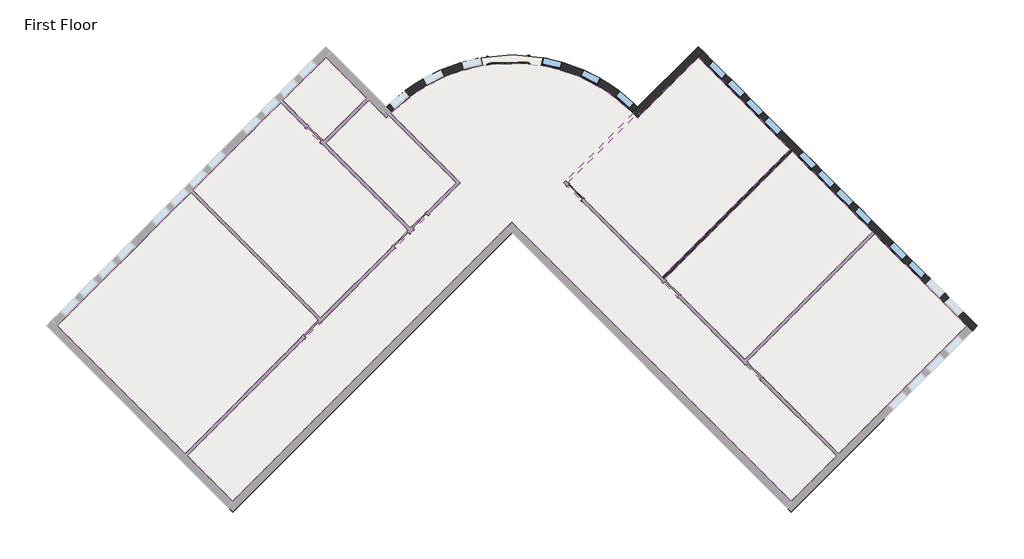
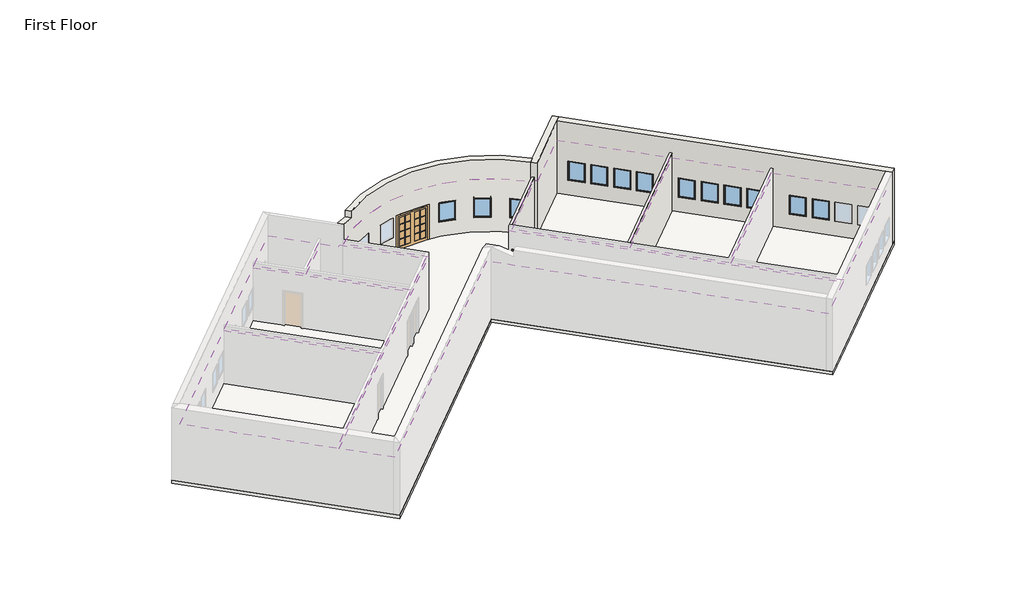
# One storey, part 2 of 2: 13 windows, 8 coverings, 5 walls, 2 doors, 1 slab.
"""IFC4 building model written with IfcOpenShell, lengths in millimetres."""

from ifc_helpers import new_model, si_unit, point, frame, frame_2d, origin, origin_with_axes, place, context, project, spatial, polyline, circle_curve, ellipse_curve, trimmed, segment, composite_curve, outline, extrude, faceted_brep, transform, mapped, element, save
from ifc_brep_helpers import plane_surface, cylinder_surface, revolved_surface, advanced_brep
from components import m_double_glass_2_1830_x_2134mm_ef281dce, m_single_glass_1_0915_x_2134mm_4e5e1233, m_fixed_0915_x_1220mm_bde29121, m_fixed_0915_x_1220mm_2a2509e7

model = new_model("IFC4")

# Units and contexts
model_context = context("Model", 3, world=origin())
ifc_project = project(units=[si_unit("LENGTHUNIT", "METRE", prefix="MILLI")], contexts=[model_context])

# Site, building, storey
site = spatial("IfcSite", under=ifc_project)
building = spatial("IfcBuilding", under=site)
storey = spatial("IfcBuildingStorey", under=building, Name="First Floor", Elevation=0.0)

# Coverings
placement = place(None, origin())
element("IfcCovering", 1, ObjectType="600 x 600mm grid", at=placement, inside=storey, context=model_context, shape_type="SweptSolid", body=[
    extrude(outline(polyline([(-10551.8033322, -2052.473346), (-16737.0431239, -8237.7131378), (-22658.8856396, -2315.870622), (-16473.6458479, 3869.3691697), (-10551.8033322, -2052.473346)])), frame((0.0, 0.0, 3353.0), z_axis=(0.0, 0.0, 1.0), x_axis=(1.0, 0.0, 0.0)), (0.0, 0.0, 1.0), 52.0),
])
element("IfcCovering", 2, ObjectType="600 x 600mm grid", at=placement, inside=storey, context=model_context, shape_type="SweptSolid", body=[
    extrude(outline(polyline([(-16375.7115587, 3967.3034589), (-12319.9238385, 8023.0911791), (-6398.0813228, 2101.2486633), (-10453.869043, -1954.5390569), (-16375.7115587, 3967.3034589)])), frame((0.0, 0.0, 3353.0), z_axis=(0.0, 0.0, 1.0), x_axis=(1.0, 0.0, 0.0)), (0.0, 0.0, 1.0), 52.0),
])
element("IfcCovering", 3, ObjectType="600 x 600mm grid", at=placement, inside=storey, context=model_context, shape_type="SweptSolid", body=[
    extrude(outline(polyline([(-8233.7305267, 8132.1624001), (-7543.133828, 7441.5657013), (-7436.5374807, 7548.1620486), (-4193.8527091, 4305.477277), (-6300.1470336, 2199.1829525), (-10233.4285039, 6132.4644229), (-8233.7305267, 8132.1624001)])), frame((0.0, 0.0, 3353.0), z_axis=(0.0, 0.0, 1.0), x_axis=(1.0, 0.0, 0.0)), (0.0, 0.0, 1.0), 52.0),
])
element("IfcCovering", 4, ObjectType="600 x 600mm grid", at=placement, inside=storey, context=model_context, shape_type="SweptSolid", body=[
    extrude(outline(polyline([(-12221.9895493, 8121.0254683), (-10222.2915721, 10120.7234455), (-8331.6648159, 8230.0966893), (-10331.3627931, 6230.3987121), (-12221.9895493, 8121.0254683)])), frame((0.0, 0.0, 3353.0), z_axis=(0.0, 0.0, 1.0), x_axis=(1.0, 0.0, 0.0)), (0.0, 0.0, 1.0), 52.0),
])
element("IfcCovering", 5, ObjectType="600 x 600mm grid", at=placement, inside=storey, context=model_context, shape_type="SweptSolid", body=[
    extrude(outline(composite_curve([segment(polyline([(795.4927389, 4305.477277), (13436.6174429, -8335.647427), (11330.3231184, -10441.9417514), (-1601.2456959, 2489.6270629), (-14532.8145102, -10441.9417514), (-16639.1088347, -8335.647427), (-3997.9841307, 4305.477277), (-7216.038281, 7523.5314273)]), True, "CONTINUOUS"), segment(trimmed(circle_curve(frame_2d((-1601.2456959, 1994.6523161)), 7880.0), [point((-7216.038281, 7523.5314273))], [point((4013.5468892, 7523.5314273))], False, "CARTESIAN"), True, "CONTINUOUS"), segment(polyline([(4013.5468892, 7523.5314273), (795.4927389, 4305.477277)]), True, "CONTINUOUS")], self_intersect=False)), frame((0.0, 0.0, 3353.0), z_axis=(0.0, 0.0, 1.0), x_axis=(1.0, 0.0, 0.0)), (0.0, 0.0, 1.0), 52.0),
])
element("IfcCovering", 6, ObjectType="600 x 600mm grid", at=placement, inside=storey, context=model_context, shape_type="SweptSolid", body=[
    extrude(outline(polyline([(4234.0460889, 7548.1620486), (4340.6424361, 7441.5657013), (7019.8001803, 10120.7234455), (11281.3559738, 5859.167652), (5359.5134581, -62.6748638), (991.3613173, 4305.477277), (4234.0460889, 7548.1620486)])), frame((0.0, 0.0, 3353.0), z_axis=(0.0, 0.0, 1.0), x_axis=(1.0, 0.0, 0.0)), (0.0, 0.0, 1.0), 52.0),
])
element("IfcCovering", 7, ObjectType="600 x 600mm grid", at=placement, inside=storey, context=model_context, shape_type="SweptSolid", body=[
    extrude(outline(polyline([(11379.290263, 5761.2333628), (15096.9041651, 2043.6194607), (9175.0616494, -3878.2230551), (5457.4477473, -160.609153), (11379.290263, 5761.2333628)])), frame((0.0, 0.0, 3353.0), z_axis=(0.0, 0.0, 1.0), x_axis=(1.0, 0.0, 0.0)), (0.0, 0.0, 1.0), 52.0),
])
element("IfcCovering", 8, ObjectType="600 x 600mm grid", at=placement, inside=storey, context=model_context, shape_type="SweptSolid", body=[
    extrude(outline(polyline([(15194.8384543, 1945.6851715), (19456.3942478, -2315.870622), (13534.5517321, -8237.7131378), (9272.9959386, -3976.1573443), (15194.8384543, 1945.6851715)])), frame((0.0, 0.0, 3353.0), z_axis=(0.0, 0.0, 1.0), x_axis=(1.0, 0.0, 0.0)), (0.0, 0.0, 1.0), 52.0),
])

# Doors
m_double_glass_2_1830_x_2134mm_shape = m_double_glass_2_1830_x_2134mm_ef281dce(model_context)
element("IfcDoor", 9, ObjectType="M_Double-Glass 2 : 1830 x 2134mm", at=placement, inside=storey, context=model_context, shape_type="MappedRepresentation", body=[
    mapped(m_double_glass_2_1830_x_2134mm_shape, transform((-1775.1372024, 9996.7407669, 0.0), x_axis=(-0.9997639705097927, -0.021725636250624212, 0.0), y_axis=(0.021725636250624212, -0.9997639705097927, 0.0), z_axis=(0.0, 0.0, 1.0))),
])
m_single_glass_1_0915_x_2134mm_shape = m_single_glass_1_0915_x_2134mm_4e5e1233(model_context)
element("IfcDoor", 10, ObjectType="M_Single-Glass 1 : 0915 x 2134mm", at=placement, inside=storey, context=model_context, shape_type="MappedRepresentation", body=[
    mapped(m_single_glass_1_0915_x_2134mm_shape, transform((1324.7621646, 3874.1421405, 0.0), x_axis=(-0.7071067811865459, 0.7071067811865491, 0.0), y_axis=(-0.7071067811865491, -0.7071067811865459, 0.0), z_axis=(0.0, 0.0, 1.0))),
])

# Slab
element("IfcSlab", 11, ObjectType="160mm Concrete With 50mm Metal Deck", at=placement, inside=storey, context=model_context, shape_type="SweptSolid", body=[
    extrude(outline(composite_curve([segment(polyline([(-10222.2915721, 10615.6981923), (-7420.7345051, 7814.1411252)]), True, "CONTINUOUS"), segment(trimmed(circle_curve(frame_2d((-1601.2456959, 1994.6523161)), 8230.0), [point((-7420.7345051, 7814.1411252))], [point((4218.2431133, 7814.1411252))], False, "CARTESIAN"), True, "CONTINUOUS"), segment(polyline([(4218.2431133, 7814.1411252), (7019.8001803, 10615.6981923), (19951.3689947, -2315.870622), (11330.3231184, -10936.9164983), (-1601.2456959, 1994.6523161), (-14532.8145102, -10936.9164983), (-23153.8603865, -2315.870622), (-10222.2915721, 10615.6981923)]), True, "CONTINUOUS")], self_intersect=False)), frame((0.0, 0.0, -210.0), z_axis=(0.0, 0.0, 1.0), x_axis=(1.0, 0.0, 0.0)), (0.0, 0.0, 1.0), 210.0),
])

# Walls
element("IfcWall", 12, ObjectType="Exterior - Brick on Mtl. Stud", at=placement, inside=storey, context=model_context, shape_type="AdvancedBrep", body=[
    advanced_brep(
    [(4212.7441701, 7313.6674352, 4572.0), (4212.7441701, 7313.6674352, 0.0), (7019.8001803, 10120.7234455, 0.0), (7267.2875537, 10368.2108189, 0.0), (7267.2875537, 10368.2108189, 4572.0), (7019.8001803, 10120.7234455, 4572.0), (3970.7557398, 7566.6537518, 0.0), (3970.7557398, 7566.6537518, 4572.0), (4218.2431133, 7814.1411252, 4572.0), (7019.8001803, 10615.6981923, 4572.0), (7019.8001803, 10615.6981923, 0.0), (4218.2431133, 7814.1411252, 0.0), (4109.8638796, 7423.9826013, 0.0), (4013.5506313, 7523.5275434, 0.0)],
    [
        (0, 1),
        (1, 2),
        (2, 3),
        (3, 4),
        (4, 5),
        (5, 0),
        (6, 7),
        (7, 8),
        (8, 9),
        (9, 10),
        (10, 11),
        (11, 6),
        (1, 12, circle_curve(frame((-1601.2456959, 1994.6523161, 0.0), z_axis=(0.0, 0.0, 1.0), x_axis=(1.0, 0.0, 0.0)), 7880.0)),
        (12, 13, circle_curve(frame((-1601.2456959, 1994.6523161, 0.0), z_axis=(0.0, 0.0, 1.0), x_axis=(1.0, 0.0, 0.0)), 7879.9999955)),
        (13, 6, circle_curve(frame((-1601.2456959, 1994.6523161, 0.0), z_axis=(0.0, 0.0, 1.0), x_axis=(1.0, 0.0, 0.0)), 7879.9999413)),
        (10, 3),
        (4, 9),
        (7, 0, circle_curve(frame((-1601.2456959, 1994.6523161, 4572.0), z_axis=(0.0, 0.0, -1.0), x_axis=(1.0, 0.0, 0.0)), 7880.0)),
    ],
    [
        plane_surface(frame((4250.0629184, 7350.9861836, 0.0), z_axis=(0.7071067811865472, -0.7071067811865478, 0.0), x_axis=(0.7071067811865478, 0.7071067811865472, 0.0))),
        plane_surface(frame((4002.575545, 7598.473557, 0.0), z_axis=(-0.7071067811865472, 0.7071067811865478, 0.0), x_axis=(-0.7071067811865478, -0.7071067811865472, 0.0))),
        plane_surface(frame((4340.6424361, 7441.5657013, 0.0), z_axis=(0.0, 0.0, -1.0), x_axis=(-0.7071067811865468, 0.7071067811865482, 0.0))),
        plane_surface(frame((7143.543867, 10244.4671322, 4572.0), z_axis=(0.0, 0.0, 1.0), x_axis=(-0.707106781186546, 0.7071067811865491, 0.0))),
        plane_surface(frame((7019.8001803, 10615.6981923, 0.0), z_axis=(0.7071067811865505, 0.7071067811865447, 0.0), x_axis=(-0.7071067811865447, 0.7071067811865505, 0.0))),
        revolved_surface(polyline([(6278.7543041, 1994.6523161, 0.0), (6278.7543041, 1994.6523161, 4572.0)]), (-1601.2456959, 1994.6523161, 0.0), (0.0, 0.0, -1.0)),
    ],
    [
        (0, [[1, 2, 3, 4, 5, 6]]),
        (1, [[7, 8, 9, 10, 11, 12]]),
        (2, [[-3, -2, 13, 14, 15, -12, -11, 16]]),
        (3, [[-6, -5, 17, -9, -8, 18]]),
        (4, [[-4, -16, -10, -17]]),
        (5, [[-18, -7, -15, -14, -13, -1]]),
    ],
),
])
element("IfcWall", 13, ObjectType="Exterior - Brick on Mtl. Stud", at=placement, inside=storey, context=model_context, shape_type="Brep", body=[
    faceted_brep([(7019.8001803, 10120.7234455, 0.0), (11281.3559738, 5859.167652, 0.0), (11379.290263, 5761.2333628, 0.0), (15096.9041651, 2043.6194607, 0.0), (15194.8384543, 1945.6851715, 0.0), (19456.3942478, -2315.870622, 0.0), (19703.8816212, -2563.3579955, 0.0), (19703.8816212, -2563.3579955, 4572.0), (19456.3942478, -2315.870622, 4572.0), (7019.8001803, 10120.7234455, 4572.0), (19041.6761207, -1901.1524949, 915.0), (18394.6734159, -1254.1497901, 915.0), (18394.6734159, -1254.1497901, 2135.0), (19041.6761207, -1901.1524949, 2135.0), (18179.7129544, -1039.1893286, 915.0), (17532.7102496, -392.1866238, 915.0), (17532.7102496, -392.1866238, 2135.0), (18179.7129544, -1039.1893286, 2135.0), (17317.7497881, -177.2261623, 915.0), (16670.7470833, 469.7765424, 915.0), (16670.7470833, 469.7765424, 2135.0), (17317.7497881, -177.2261623, 2135.0), (16455.7866219, 684.7370039, 915.0), (15808.7839171, 1331.7397087, 915.0), (15808.7839171, 1331.7397087, 2135.0), (16455.7866219, 684.7370039, 2135.0), (12257.1680181, 4883.3556077, 915.0), (11610.1653133, 5530.3583124, 915.0), (11610.1653133, 5530.3583124, 2135.0), (12257.1680181, 4883.3556077, 2135.0), (13119.1311844, 4021.3924414, 915.0), (12472.1284796, 4668.3951462, 915.0), (12472.1284796, 4668.3951462, 2135.0), (13119.1311844, 4021.3924414, 2135.0), (13981.0943507, 3159.4292751, 915.0), (13334.0916459, 3806.4319799, 915.0), (13334.0916459, 3806.4319799, 2135.0), (13981.0943507, 3159.4292751, 2135.0), (14843.0575169, 2297.4661089, 915.0), (14196.0548121, 2944.4688136, 915.0), (14196.0548121, 2944.4688136, 2135.0), (14843.0575169, 2297.4661089, 2135.0), (8081.5210123, 9059.0026135, 915.0), (7434.5183075, 9706.0053183, 915.0), (7434.5183075, 9706.0053183, 2135.0), (8081.5210123, 9059.0026135, 2135.0), (8943.4841785, 8197.0394473, 915.0), (8296.4814737, 8844.042152, 915.0), (8296.4814737, 8844.042152, 2135.0), (8943.4841785, 8197.0394473, 2135.0), (9805.4473448, 7335.076281, 915.0), (9158.44464, 7982.0789858, 915.0), (9158.44464, 7982.0789858, 2135.0), (9805.4473448, 7335.076281, 2135.0), (10667.4105111, 6473.1131147, 915.0), (10020.4078063, 7120.1158195, 915.0), (10020.4078063, 7120.1158195, 2135.0), (10667.4105111, 6473.1131147, 2135.0), (7267.2875537, 10368.2108189, 0.0), (7267.2875537, 10368.2108189, 4572.0), (19951.3689947, -2315.870622, 4572.0), (19951.3689947, -2315.870622, 0.0), (19289.1634941, -1653.6651215, 915.0), (19289.1634941, -1653.6651215, 2135.0), (18642.1607893, -1006.6624167, 2135.0), (18642.1607893, -1006.6624167, 915.0), (18427.2003278, -791.7019552, 915.0), (18427.2003278, -791.7019552, 2135.0), (17780.197623, -144.6992504, 2135.0), (17780.197623, -144.6992504, 915.0), (17565.2371615, 70.2612111, 915.0), (17565.2371615, 70.2612111, 2135.0), (16918.2344568, 717.2639159, 2135.0), (16918.2344568, 717.2639159, 915.0), (16703.2739953, 932.2243773, 915.0), (16703.2739953, 932.2243773, 2135.0), (16056.2712905, 1579.2270821, 2135.0), (16056.2712905, 1579.2270821, 915.0), (12504.6553915, 5130.8429811, 915.0), (12504.6553915, 5130.8429811, 2135.0), (11857.6526868, 5777.8456859, 2135.0), (11857.6526868, 5777.8456859, 915.0), (13366.6185578, 4268.8798148, 915.0), (13366.6185578, 4268.8798148, 2135.0), (12719.615853, 4915.8825196, 2135.0), (12719.615853, 4915.8825196, 915.0), (14228.5817241, 3406.9166485, 915.0), (14228.5817241, 3406.9166485, 2135.0), (13581.5790193, 4053.9193533, 2135.0), (13581.5790193, 4053.9193533, 915.0), (15090.5448903, 2544.9534823, 915.0), (15090.5448903, 2544.9534823, 2135.0), (14443.5421856, 3191.9561871, 2135.0), (14443.5421856, 3191.9561871, 915.0), (8329.0083857, 9306.4899869, 915.0), (8329.0083857, 9306.4899869, 2135.0), (7682.0056809, 9953.4926917, 2135.0), (7682.0056809, 9953.4926917, 915.0), (9190.971552, 8444.5268207, 915.0), (9190.971552, 8444.5268207, 2135.0), (8543.9688472, 9091.5295255, 2135.0), (8543.9688472, 9091.5295255, 915.0), (10052.9347182, 7582.5636544, 915.0), (10052.9347182, 7582.5636544, 2135.0), (9405.9320134, 8229.5663592, 2135.0), (9405.9320134, 8229.5663592, 915.0), (10914.8978845, 6720.6004881, 915.0), (10914.8978845, 6720.6004881, 2135.0), (10267.8951797, 7367.6031929, 2135.0), (10267.8951797, 7367.6031929, 915.0)], [[[0, 1, 2, 3, 4, 5, 6, 7, 8, 9], [10, 11, 12, 13], [14, 15, 16, 17], [18, 19, 20, 21], [22, 23, 24, 25], [26, 27, 28, 29], [30, 31, 32, 33], [34, 35, 36, 37], [38, 39, 40, 41], [42, 43, 44, 45], [46, 47, 48, 49], [50, 51, 52, 53], [54, 55, 56, 57]], [[58, 59, 60, 61], [62, 63, 64, 65], [66, 67, 68, 69], [70, 71, 72, 73], [74, 75, 76, 77], [78, 79, 80, 81], [82, 83, 84, 85], [86, 87, 88, 89], [90, 91, 92, 93], [94, 95, 96, 97], [98, 99, 100, 101], [102, 103, 104, 105], [106, 107, 108, 109]], [[6, 5, 4, 3, 2, 1, 0, 58, 61]], [[9, 8, 7, 60, 59]], [[0, 9, 59, 58]], [[7, 6, 61, 60]], [[63, 62, 10, 13]], [[64, 63, 13, 12]], [[65, 64, 12, 11]], [[62, 65, 11, 10]], [[67, 66, 14, 17]], [[68, 67, 17, 16]], [[69, 68, 16, 15]], [[66, 69, 15, 14]], [[71, 70, 18, 21]], [[72, 71, 21, 20]], [[73, 72, 20, 19]], [[70, 73, 19, 18]], [[75, 74, 22, 25]], [[76, 75, 25, 24]], [[77, 76, 24, 23]], [[74, 77, 23, 22]], [[79, 78, 26, 29]], [[80, 79, 29, 28]], [[81, 80, 28, 27]], [[78, 81, 27, 26]], [[83, 82, 30, 33]], [[84, 83, 33, 32]], [[85, 84, 32, 31]], [[82, 85, 31, 30]], [[87, 86, 34, 37]], [[88, 87, 37, 36]], [[89, 88, 36, 35]], [[86, 89, 35, 34]], [[91, 90, 38, 41]], [[92, 91, 41, 40]], [[93, 92, 40, 39]], [[90, 93, 39, 38]], [[95, 94, 42, 45]], [[96, 95, 45, 44]], [[97, 96, 44, 43]], [[94, 97, 43, 42]], [[99, 98, 46, 49]], [[100, 99, 49, 48]], [[101, 100, 48, 47]], [[98, 101, 47, 46]], [[103, 102, 50, 53]], [[104, 103, 53, 52]], [[105, 104, 52, 51]], [[102, 105, 51, 50]], [[107, 106, 54, 57]], [[108, 107, 57, 56]], [[109, 108, 56, 55]], [[106, 109, 55, 54]]]),
])
element("IfcWall", 14, ObjectType="Exterior - Brick on Mtl. Stud", at=placement, inside=storey, context=model_context, shape_type="AdvancedBrep", body=[
    advanced_brep(
    [(-7420.7345051, 7814.1411252, 0.0), (-7420.7345051, 7814.1411252, 4572.0), (-6493.7687298, 8612.515896, 4164.7405634), (-6493.7687298, 8612.515896, 4572.0), (4218.2431133, 7814.1411252, 4572.0), (4218.2431133, 7814.1411252, 0.0), (-864.1551557, 10191.5784189, 0.0), (-864.1551557, 10191.5784189, 2134.0), (-2693.7232217, 10151.8205046, 2134.0), (-2693.7232217, 10151.8205046, 0.0), (-6560.8584073, 8562.3872188, 915.0), (-6560.8584073, 8562.3872188, 2135.0), (-7259.2688911, 7971.2461222, 2135.0), (-7259.2688911, 7971.2461222, 915.0), (-3038.6037285, 10098.1640169, 915.0), (-3038.6037285, 10098.1640169, 2135.0), (-3929.264468, 9888.5251676, 2135.0), (-3929.264468, 9888.5251676, 915.0), (-4890.6166492, 9538.7187747, 915.0), (-4890.6166492, 9538.7187747, 2135.0), (-5707.7291441, 9126.9516431, 2135.0), (-5707.7291441, 9126.9516431, 915.0), (1688.1252574, 9538.7187747, 2135.0), (1688.1252574, 9538.7187747, 915.0), (2505.2377523, 9126.9516431, 915.0), (2505.2377523, 9126.9516431, 2135.0), (-163.8876633, 10098.1640169, 2135.0), (-163.8876633, 10098.1640169, 915.0), (726.7730762, 9888.5251676, 915.0), (726.7730762, 9888.5251676, 2135.0), (3358.3670155, 8562.3872188, 2135.0), (3358.3670155, 8562.3872188, 915.0), (4056.7774992, 7971.2461222, 915.0), (4056.7774992, 7971.2461222, 2135.0), (-7173.2471317, 7566.6537518, 4572.0), (-7173.2471317, 7566.6537518, 0.0), (-2686.0696858, 9799.6223295, 0.0), (-2686.0696858, 9799.6223295, 2134.0), (-856.5016198, 9839.3802439, 2134.0), (-856.5016198, 9839.3802439, 0.0), (3970.7557398, 7566.6537518, 0.0), (3970.7557398, 7566.6537518, 4572.0), (-6243.3914961, 8362.1386623, 4572.0), (-6243.3914961, 8362.1386623, 4164.7405634), (-6334.373084, 8294.8035149, 915.0), (-7032.7835678, 7703.6624182, 915.0), (-7032.7835678, 7703.6624182, 2135.0), (-6334.373084, 8294.8035149, 2135.0), (-2958.2842873, 9756.9230059, 2135.0), (-2958.2842873, 9756.9230059, 915.0), (-3848.9450268, 9547.2841566, 915.0), (-3848.9450268, 9547.2841566, 2135.0), (-4732.8553085, 9225.6564811, 2135.0), (-4732.8553085, 9225.6564811, 915.0), (-5549.9678034, 8813.8893495, 915.0), (-5549.9678034, 8813.8893495, 2135.0), (1530.3639167, 9225.6564811, 915.0), (1530.3639167, 9225.6564811, 2135.0), (2347.4764116, 8813.8893495, 2135.0), (2347.4764116, 8813.8893495, 915.0), (-244.2071045, 9756.9230059, 915.0), (-244.2071045, 9756.9230059, 2135.0), (646.453635, 9547.2841566, 2135.0), (646.453635, 9547.2841566, 915.0), (3131.8816922, 8294.8035149, 915.0), (3131.8816922, 8294.8035149, 2135.0), (3830.2921759, 7703.6624182, 2135.0), (3830.2921759, 7703.6624182, 915.0)],
    [
        (0, 1),
        (1, 2, ellipse_curve(frame((-1601.2456959, 1994.6523161, 4572.0), z_axis=(-0.22390007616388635, -0.2239000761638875, -0.9485449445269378), x_axis=(-0.6707225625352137, -0.6707225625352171, 0.3166425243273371)), 8676.447065, 8230.0)),
        (2, 3),
        (3, 4, circle_curve(frame((-1601.2456959, 1994.6523161, 4572.0), z_axis=(0.0, 0.0, -1.0), x_axis=(1.0, 0.0, 0.0)), 8230.0)),
        (4, 5),
        (5, 6, circle_curve(frame((-1601.2456959, 1994.6523161, 0.0), z_axis=(0.0, 0.0, 1.0), x_axis=(1.0, 0.0, 0.0)), 8230.0)),
        (6, 7),
        (7, 8, circle_curve(frame((-1601.2456959, 1994.6523161, 2134.0), z_axis=(0.0, 0.0, 1.0), x_axis=(1.0, 0.0, 0.0)), 8230.0)),
        (8, 9),
        (9, 0, circle_curve(frame((-1601.2456959, 1994.6523161, 0.0), z_axis=(0.0, 0.0, 1.0), x_axis=(1.0, 0.0, 0.0)), 8230.0)),
        (10, 11),
        (11, 12, circle_curve(frame((-1601.2456959, 1994.6523161, 2135.0), z_axis=(0.0, 0.0, 1.0), x_axis=(1.0, 0.0, 0.0)), 8230.0)),
        (12, 13),
        (13, 10, circle_curve(frame((-1601.2456959, 1994.6523161, 915.0), z_axis=(0.0, 0.0, -1.0), x_axis=(1.0, 0.0, 0.0)), 8230.0)),
        (14, 15),
        (15, 16, circle_curve(frame((-1601.2456959, 1994.6523161, 2135.0), z_axis=(0.0, 0.0, 1.0), x_axis=(1.0, 0.0, 0.0)), 8230.0)),
        (16, 17),
        (17, 14, circle_curve(frame((-1601.2456959, 1994.6523161, 915.0), z_axis=(0.0, 0.0, -1.0), x_axis=(1.0, 0.0, 0.0)), 8230.0)),
        (18, 19),
        (19, 20, circle_curve(frame((-1601.2456959, 1994.6523161, 2135.0), z_axis=(0.0, 0.0, 1.0), x_axis=(1.0, 0.0, 0.0)), 8230.0)),
        (20, 21),
        (21, 18, circle_curve(frame((-1601.2456959, 1994.6523161, 915.0), z_axis=(0.0, 0.0, -1.0), x_axis=(1.0, 0.0, 0.0)), 8230.0)),
        (22, 23),
        (23, 24, circle_curve(frame((-1601.2456959, 1994.6523161, 915.0), z_axis=(0.0, 0.0, -1.0), x_axis=(1.0, 0.0, 0.0)), 8230.0)),
        (24, 25),
        (25, 22, circle_curve(frame((-1601.2456959, 1994.6523161, 2135.0), z_axis=(0.0, 0.0, 1.0), x_axis=(1.0, 0.0, 0.0)), 8230.0)),
        (26, 27),
        (27, 28, circle_curve(frame((-1601.2456959, 1994.6523161, 915.0), z_axis=(0.0, 0.0, -1.0), x_axis=(1.0, 0.0, 0.0)), 8230.0)),
        (28, 29),
        (29, 26, circle_curve(frame((-1601.2456959, 1994.6523161, 2135.0), z_axis=(0.0, 0.0, 1.0), x_axis=(1.0, 0.0, 0.0)), 8230.0)),
        (30, 31),
        (31, 32, circle_curve(frame((-1601.2456959, 1994.6523161, 915.0), z_axis=(0.0, 0.0, -1.0), x_axis=(1.0, 0.0, 0.0)), 8230.0)),
        (32, 33),
        (33, 30, circle_curve(frame((-1601.2456959, 1994.6523161, 2135.0), z_axis=(0.0, 0.0, 1.0), x_axis=(1.0, 0.0, 0.0)), 8230.0)),
        (34, 35),
        (35, 36, circle_curve(frame((-1601.2456959, 1994.6523161, 0.0), z_axis=(0.0, 0.0, -1.0), x_axis=(1.0, 0.0, 0.0)), 7880.0)),
        (36, 37),
        (37, 38, circle_curve(frame((-1601.2456959, 1994.6523161, 2134.0), z_axis=(0.0, 0.0, -1.0), x_axis=(1.0, 0.0, 0.0)), 7880.0)),
        (38, 39),
        (39, 40, circle_curve(frame((-1601.2456959, 1994.6523161, 0.0), z_axis=(0.0, 0.0, -1.0), x_axis=(1.0, 0.0, 0.0)), 7880.0)),
        (40, 41),
        (41, 42, circle_curve(frame((-1601.2456959, 1994.6523161, 4572.0), z_axis=(0.0, 0.0, 1.0), x_axis=(1.0, 0.0, 0.0)), 7880.0)),
        (42, 43),
        (43, 34, ellipse_curve(frame((-1601.2456959, 1994.6523161, 4572.0), z_axis=(0.22390007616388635, 0.2239000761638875, 0.9485449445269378), x_axis=(0.6707225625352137, 0.6707225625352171, -0.3166425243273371)), 8307.4608594, 7880.0)),
        (44, 45, circle_curve(frame((-1601.2456959, 1994.6523161, 915.0), z_axis=(0.0, 0.0, 1.0), x_axis=(1.0, 0.0, 0.0)), 7880.0)),
        (45, 46),
        (46, 47, circle_curve(frame((-1601.2456959, 1994.6523161, 2135.0), z_axis=(0.0, 0.0, -1.0), x_axis=(1.0, 0.0, 0.0)), 7880.0)),
        (47, 44),
        (48, 49),
        (49, 50, circle_curve(frame((-1601.2456959, 1994.6523161, 915.0), z_axis=(0.0, 0.0, 1.0), x_axis=(1.0, 0.0, 0.0)), 7880.0)),
        (50, 51),
        (51, 48, circle_curve(frame((-1601.2456959, 1994.6523161, 2135.0), z_axis=(0.0, 0.0, -1.0), x_axis=(1.0, 0.0, 0.0)), 7880.0)),
        (52, 53),
        (53, 54, circle_curve(frame((-1601.2456959, 1994.6523161, 915.0), z_axis=(0.0, 0.0, 1.0), x_axis=(1.0, 0.0, 0.0)), 7880.0)),
        (54, 55),
        (55, 52, circle_curve(frame((-1601.2456959, 1994.6523161, 2135.0), z_axis=(0.0, 0.0, -1.0), x_axis=(1.0, 0.0, 0.0)), 7880.0)),
        (56, 57),
        (57, 58, circle_curve(frame((-1601.2456959, 1994.6523161, 2135.0), z_axis=(0.0, 0.0, -1.0), x_axis=(1.0, 0.0, 0.0)), 7880.0)),
        (58, 59),
        (59, 56, circle_curve(frame((-1601.2456959, 1994.6523161, 915.0), z_axis=(0.0, 0.0, 1.0), x_axis=(1.0, 0.0, 0.0)), 7880.0)),
        (60, 61),
        (61, 62, circle_curve(frame((-1601.2456959, 1994.6523161, 2135.0), z_axis=(0.0, 0.0, -1.0), x_axis=(1.0, 0.0, 0.0)), 7880.0)),
        (62, 63),
        (63, 60, circle_curve(frame((-1601.2456959, 1994.6523161, 915.0), z_axis=(0.0, 0.0, 1.0), x_axis=(1.0, 0.0, 0.0)), 7880.0)),
        (64, 65),
        (65, 66, circle_curve(frame((-1601.2456959, 1994.6523161, 2135.0), z_axis=(0.0, 0.0, -1.0), x_axis=(1.0, 0.0, 0.0)), 7880.0)),
        (66, 67),
        (67, 64, circle_curve(frame((-1601.2456959, 1994.6523161, 915.0), z_axis=(0.0, 0.0, 1.0), x_axis=(1.0, 0.0, 0.0)), 7880.0)),
        (0, 35),
        (34, 1),
        (4, 41),
        (40, 5),
        (8, 37),
        (36, 9),
        (7, 38),
        (6, 39),
        (10, 44),
        (47, 11),
        (46, 12),
        (45, 13),
        (14, 49),
        (48, 15),
        (51, 16),
        (50, 17),
        (18, 53),
        (52, 19),
        (55, 20),
        (54, 21),
        (56, 23),
        (22, 57),
        (25, 58),
        (24, 59),
        (60, 27),
        (26, 61),
        (29, 62),
        (28, 63),
        (64, 31),
        (30, 65),
        (33, 66),
        (32, 67),
        (3, 42),
        (2, 43),
    ],
    [
        cylinder_surface(frame((-1601.2456959, 1994.6523161, 0.0), z_axis=(0.0, 0.0, 1.0), x_axis=(1.0, 0.0, 0.0)), 8230.0),
        revolved_surface(polyline([(6278.7543041, 1994.6523161, 0.0), (6278.7543041, 1994.6523161, 7202.495377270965)]), (-1601.2456959, 1994.6523161, 0.0), (0.0, 0.0, -1.0)),
        plane_surface(frame((-10222.2915721, 10615.6981923, 0.0), z_axis=(-0.7071067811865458, -0.7071067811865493, 0.0), x_axis=(-0.7071067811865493, 0.7071067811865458, 0.0))),
        plane_surface(frame((4002.575545, 7598.473557, 0.0), z_axis=(0.7071067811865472, -0.7071067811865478, 0.0), x_axis=(-0.7071067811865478, -0.7071067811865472, 0.0))),
        plane_surface(frame((-2726.8330914, 11675.4607956, 0.0), z_axis=(0.9997639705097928, 0.021725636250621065, 0.0), x_axis=(0.021725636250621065, -0.9997639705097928, 0.0))),
        plane_surface(frame((-2726.8330914, 11675.4607956, 2134.0), z_axis=(0.0, 0.0, -1.0000000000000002), x_axis=(0.021725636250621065, -0.9997639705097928, 0.0))),
        plane_surface(frame((-897.2650253, 11715.21871, 2134.0), z_axis=(-0.9997639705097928, -0.021725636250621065, 0.0), x_axis=(0.021725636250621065, -0.9997639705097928, 0.0))),
        plane_surface(frame((-6560.8584073, 8562.3872188, 915.0), z_axis=(-0.7632901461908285, -0.6460558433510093, 0.0), x_axis=(0.6460558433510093, -0.7632901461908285, 0.0))),
        plane_surface(frame((-6560.8584073, 8562.3872188, 2135.0), z_axis=(0.0, 0.0, -1.0000000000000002), x_axis=(0.6460558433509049, -0.7632901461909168, 0.0))),
        plane_surface(frame((-7259.2688911, 7971.2461222, 2135.0), z_axis=(0.7632901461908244, 0.6460558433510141, 0.0), x_axis=(0.6460558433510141, -0.7632901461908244, 0.0))),
        plane_surface(frame((-7259.2688911, 7971.2461222, 915.0), z_axis=(0.0, 0.0, 1.0), x_axis=(0.6460558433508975, -0.7632901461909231, 0.0))),
        plane_surface(frame((-2689.4347599, 8614.7028508, 915.0), z_axis=(-0.9733997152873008, -0.22911349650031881, 0.0), x_axis=(-0.22911349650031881, 0.9733997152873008, 0.0))),
        plane_surface(frame((-2689.4347599, 8614.7028508, 2135.0), z_axis=(0.0, 0.0, -1.0), x_axis=(-0.22911349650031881, 0.9733997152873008, 0.0))),
        plane_surface(frame((-3580.0954993, 8405.0640015, 2135.0), z_axis=(0.9733997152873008, 0.2291134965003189, 0.0), x_axis=(-0.2291134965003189, 0.9733997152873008, 0.0))),
        plane_surface(frame((-3580.0954993, 8405.0640015, 915.0), z_axis=(0.0, 0.0, 1.0), x_axis=(-0.2291134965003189, 0.9733997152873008, 0.0))),
        plane_surface(frame((-4890.6166492, 9538.7187747, 915.0), z_axis=(-0.893019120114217, -0.45001872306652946, 0.0), x_axis=(0.45001872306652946, -0.893019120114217, 0.0))),
        plane_surface(frame((-4890.6166492, 9538.7187747, 2135.0), z_axis=(0.0, 0.0, -1.0), x_axis=(0.4500187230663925, -0.893019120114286, 0.0))),
        plane_surface(frame((-5707.7291441, 9126.9516431, 2135.0), z_axis=(0.8930191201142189, 0.4500187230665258, 0.0), x_axis=(0.4500187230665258, -0.8930191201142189, 0.0))),
        plane_surface(frame((-5707.7291441, 9126.9516431, 915.0), z_axis=(0.0, 0.0, 1.0), x_axis=(0.4500187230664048, -0.8930191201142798, 0.0))),
        plane_surface(frame((1530.3639167, 9225.6564811, 915.0), z_axis=(0.8930191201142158, -0.45001872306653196, 0.0), x_axis=(0.45001872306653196, 0.8930191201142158, 0.0))),
        plane_surface(frame((1530.3639167, 9225.6564811, 2135.0), z_axis=(0.0, 0.0, -1.0000000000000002), x_axis=(0.4500187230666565, 0.8930191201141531, 0.0))),
        plane_surface(frame((2347.4764116, 8813.8893495, 2135.0), z_axis=(-0.8930191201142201, 0.4500187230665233, 0.0), x_axis=(0.4500187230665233, 0.8930191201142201, 0.0))),
        plane_surface(frame((2347.4764116, 8813.8893495, 915.0), z_axis=(0.0, 0.0, 1.0000000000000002), x_axis=(0.45001872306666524, 0.8930191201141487, 0.0))),
        plane_surface(frame((-244.2071045, 9756.9230059, 915.0), z_axis=(0.9733997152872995, -0.22911349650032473, 0.0), x_axis=(0.22911349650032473, 0.9733997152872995, 0.0))),
        plane_surface(frame((-244.2071045, 9756.9230059, 2135.0), z_axis=(0.0, 0.0, -1.0), x_axis=(0.2291134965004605, 0.9733997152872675, 0.0))),
        plane_surface(frame((646.453635, 9547.2841566, 2135.0), z_axis=(-0.9733997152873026, 0.22911349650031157, 0.0), x_axis=(0.22911349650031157, 0.9733997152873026, 0.0))),
        plane_surface(frame((646.453635, 9547.2841566, 915.0), z_axis=(0.0, 0.0, 1.0000000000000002), x_axis=(0.22911349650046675, 0.9733997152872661, 0.0))),
        plane_surface(frame((3131.8816922, 8294.8035149, 915.0), z_axis=(0.7632901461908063, -0.6460558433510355, 0.0), x_axis=(0.6460558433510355, 0.7632901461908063, 0.0))),
        plane_surface(frame((3131.8816922, 8294.8035149, 2135.0), z_axis=(0.0, 0.0, -1.0), x_axis=(0.646055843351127, 0.7632901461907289, 0.0))),
        plane_surface(frame((3830.2921759, 7703.6624182, 2135.0), z_axis=(-0.76329014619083, 0.6460558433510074, 0.0), x_axis=(0.6460558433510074, 0.76329014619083, 0.0))),
        plane_surface(frame((3830.2921759, 7703.6624182, 915.0), z_axis=(0.0, 0.0, 1.0), x_axis=(0.6460558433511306, 0.7632901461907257, 0.0))),
        plane_surface(frame((6628.7543041, 1994.6523161, 4572.0), z_axis=(0.0, 0.0, 1.0), x_axis=(0.0, 1.0, 0.0))),
        plane_surface(frame((-5049.098361, 7167.8455272, 4164.7405634), z_axis=(-0.7071067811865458, -0.7071067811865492, 0.0), x_axis=(-0.7071067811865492, 0.7071067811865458, 0.0))),
        plane_surface(frame((124.0948502, 1994.6523161, 4164.7405634), z_axis=(0.22390007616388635, 0.2239000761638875, 0.9485449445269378), x_axis=(-0.7071067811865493, 0.7071067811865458, 0.0))),
        plane_surface(frame((-10098.5478854, 10491.9545056, 0.0), z_axis=(0.0, 0.0, -1.0000000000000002), x_axis=(-0.7071067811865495, 0.7071067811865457, 0.0))),
    ],
    [
        (0, [[1, 2, 3, 4, 5, 6, 7, 8, 9, 10], [11, 12, 13, 14], [15, 16, 17, 18], [19, 20, 21, 22], [23, 24, 25, 26], [27, 28, 29, 30], [31, 32, 33, 34]]),
        (1, [[35, 36, 37, 38, 39, 40, 41, 42, 43, 44], [45, 46, 47, 48], [49, 50, 51, 52], [53, 54, 55, 56], [57, 58, 59, 60], [61, 62, 63, 64], [65, 66, 67, 68]]),
        (2, [[-1, 69, -35, 70]]),
        (3, [[71, -41, 72, -5]]),
        (4, [[73, -37, 74, -9]]),
        (5, [[-73, -8, 75, -38]]),
        (6, [[-75, -7, 76, -39]]),
        (7, [[-11, 77, -48, 78]]),
        (8, [[-12, -78, -47, 79]]),
        (9, [[-13, -79, -46, 80]]),
        (10, [[-14, -80, -45, -77]]),
        (11, [[81, -49, 82, -15]]),
        (12, [[-82, -52, 83, -16]]),
        (13, [[-83, -51, 84, -17]]),
        (14, [[-81, -18, -84, -50]]),
        (15, [[-19, 85, -53, 86]]),
        (16, [[-20, -86, -56, 87]]),
        (17, [[-21, -87, -55, 88]]),
        (18, [[-22, -88, -54, -85]]),
        (19, [[-57, 89, -23, 90]]),
        (20, [[-58, -90, -26, 91]]),
        (21, [[-59, -91, -25, 92]]),
        (22, [[-60, -92, -24, -89]]),
        (23, [[-61, 93, -27, 94]]),
        (24, [[-62, -94, -30, 95]]),
        (25, [[-63, -95, -29, 96]]),
        (26, [[-64, -96, -28, -93]]),
        (27, [[-65, 97, -31, 98]]),
        (28, [[-66, -98, -34, 99]]),
        (29, [[-67, -99, -33, 100]]),
        (30, [[-68, -100, -32, -97]]),
        (31, [[-71, -4, 101, -42]]),
        (32, [[-101, -3, 102, -43]]),
        (33, [[-2, -70, -44, -102]]),
        (34, [[-69, -10, -74, -36]]),
        (34, [[-72, -40, -76, -6]]),
    ],
),
])
element("IfcWall", 15, ObjectType="Interior - 138mm Partition (1-hr)", at=placement, inside=storey, context=model_context, shape_type="SweptSolid", body=[
    extrude(outline(composite_curve([segment(polyline([(4109.8652288, 7423.9811885), (991.3613173, 4305.477277), (893.4270281, 4403.4115662), (4013.5468892, 7523.5314273)]), True, "CONTINUOUS"), segment(trimmed(circle_curve(frame_2d((-1601.2456959, 1994.6523161)), 7880.0), [point((4013.5468892, 7523.5314273))], [point((4109.8652288, 7423.9811885))], False, "CARTESIAN"), True, "CONTINUOUS")], self_intersect=False)), origin_with_axes(), (0.0, 0.0, 1.0), 3658.0),
])
element("IfcWall", 16, ObjectType="Interior - 138mm Partition (1-hr)", at=placement, inside=storey, context=model_context, shape_type="SweptSolid", body=[
    extrude(outline(polyline([(11379.290263, 5761.2333628), (5457.4477473, -160.609153), (5359.5134581, -62.6748638), (11281.3559738, 5859.167652), (11379.290263, 5761.2333628)])), origin_with_axes(), (0.0, 0.0, 1.0), 3658.0),
])

# Windows
m_fixed_0915_x_1220mm_shape = m_fixed_0915_x_1220mm_bde29121(model_context)
element("IfcWindow", 17, ObjectType="M_Fixed : 0915 x 1220mm", at=placement, inside=storey, context=model_context, shape_type="MappedRepresentation", body=[
    mapped(m_fixed_0915_x_1220mm_shape, transform((17127.1845106, 279.2112649, 0.0), x_axis=(-0.7071067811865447, 0.7071067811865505, 0.0), y_axis=(-0.7071067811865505, -0.7071067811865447, 0.0), z_axis=(0.0, 0.0, 1.0))),
])
element("IfcWindow", 18, ObjectType="M_Fixed : 0915 x 1220mm", at=placement, inside=storey, context=model_context, shape_type="MappedRepresentation", body=[
    mapped(m_fixed_0915_x_1220mm_shape, transform((16265.2213443, 1141.1744312, 0.0), x_axis=(-0.7071067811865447, 0.7071067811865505, 0.0), y_axis=(-0.7071067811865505, -0.7071067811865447, 0.0), z_axis=(0.0, 0.0, 1.0))),
])
element("IfcWindow", 19, ObjectType="M_Fixed : 0915 x 1220mm", at=placement, inside=storey, context=model_context, shape_type="MappedRepresentation", body=[
    mapped(m_fixed_0915_x_1220mm_shape, transform((14652.4922394, 2753.9035361, 0.0), x_axis=(-0.7071067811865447, 0.7071067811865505, 0.0), y_axis=(-0.7071067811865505, -0.7071067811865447, 0.0), z_axis=(0.0, 0.0, 1.0))),
])
element("IfcWindow", 20, ObjectType="M_Fixed : 0915 x 1220mm", at=placement, inside=storey, context=model_context, shape_type="MappedRepresentation", body=[
    mapped(m_fixed_0915_x_1220mm_shape, transform((13790.5290731, 3615.8667024, 0.0), x_axis=(-0.7071067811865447, 0.7071067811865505, 0.0), y_axis=(-0.7071067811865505, -0.7071067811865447, 0.0), z_axis=(0.0, 0.0, 1.0))),
])
element("IfcWindow", 21, ObjectType="M_Fixed : 0915 x 1220mm", at=placement, inside=storey, context=model_context, shape_type="MappedRepresentation", body=[
    mapped(m_fixed_0915_x_1220mm_shape, transform((12928.5659069, 4477.8298686, 0.0), x_axis=(-0.7071067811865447, 0.7071067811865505, 0.0), y_axis=(-0.7071067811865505, -0.7071067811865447, 0.0), z_axis=(0.0, 0.0, 1.0))),
])
element("IfcWindow", 22, ObjectType="M_Fixed : 0915 x 1220mm", at=placement, inside=storey, context=model_context, shape_type="MappedRepresentation", body=[
    mapped(m_fixed_0915_x_1220mm_shape, transform((12066.6027406, 5339.7930349, 0.0), x_axis=(-0.7071067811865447, 0.7071067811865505, 0.0), y_axis=(-0.7071067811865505, -0.7071067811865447, 0.0), z_axis=(0.0, 0.0, 1.0))),
])
element("IfcWindow", 23, ObjectType="M_Fixed : 0915 x 1220mm", at=placement, inside=storey, context=model_context, shape_type="MappedRepresentation", body=[
    mapped(m_fixed_0915_x_1220mm_shape, transform((7890.9557347, 9515.4400408, 0.0), x_axis=(-0.7071067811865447, 0.7071067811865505, 0.0), y_axis=(-0.7071067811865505, -0.7071067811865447, 0.0), z_axis=(0.0, 0.0, 1.0))),
])
element("IfcWindow", 24, ObjectType="M_Fixed : 0915 x 1220mm", at=placement, inside=storey, context=model_context, shape_type="MappedRepresentation", body=[
    mapped(m_fixed_0915_x_1220mm_shape, transform((8752.918901, 8653.4768745, 0.0), x_axis=(-0.7071067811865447, 0.7071067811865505, 0.0), y_axis=(-0.7071067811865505, -0.7071067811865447, 0.0), z_axis=(0.0, 0.0, 1.0))),
])
element("IfcWindow", 25, ObjectType="M_Fixed : 0915 x 1220mm", at=placement, inside=storey, context=model_context, shape_type="MappedRepresentation", body=[
    mapped(m_fixed_0915_x_1220mm_shape, transform((9614.8820673, 7791.5137082, 0.0), x_axis=(-0.7071067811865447, 0.7071067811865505, 0.0), y_axis=(-0.7071067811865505, -0.7071067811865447, 0.0), z_axis=(0.0, 0.0, 1.0))),
])
element("IfcWindow", 26, ObjectType="M_Fixed : 0915 x 1220mm", at=placement, inside=storey, context=model_context, shape_type="MappedRepresentation", body=[
    mapped(m_fixed_0915_x_1220mm_shape, transform((10476.8452335, 6929.550542, 0.0), x_axis=(-0.7071067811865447, 0.7071067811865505, 0.0), y_axis=(-0.7071067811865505, -0.7071067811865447, 0.0), z_axis=(0.0, 0.0, 1.0))),
])
m_fixed_0915_x_1220mm_2_shape = m_fixed_0915_x_1220mm_2a2509e7(model_context)
element("IfcWindow", 27, ObjectType="M_Fixed : 0915 x 1220mm", at=placement, inside=storey, context=model_context, shape_type="MappedRepresentation", body=[
    mapped(m_fixed_0915_x_1220mm_2_shape, transform((3602.9112107, 8143.1636668, 0.0), x_axis=(0.7632901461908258, -0.6460558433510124, 0.0), y_axis=(0.6460558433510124, 0.7632901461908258, 0.0), z_axis=(0.0, 0.0, 1.0))),
])
element("IfcWindow", 28, ObjectType="M_Fixed : 0915 x 1220mm", at=placement, inside=storey, context=model_context, shape_type="MappedRepresentation", body=[
    mapped(m_fixed_0915_x_1220mm_2_shape, transform((244.32632, 9835.6538384, 0.0), x_axis=(0.9733997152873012, -0.2291134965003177, 0.0), y_axis=(0.2291134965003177, 0.9733997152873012, 0.0), z_axis=(0.0, 0.0, 1.0))),
])
element("IfcWindow", 29, ObjectType="M_Fixed : 0915 x 1220mm", at=placement, inside=storey, context=model_context, shape_type="MappedRepresentation", body=[
    mapped(m_fixed_0915_x_1220mm_2_shape, transform((2023.7784717, 9188.1661114, 0.0), x_axis=(0.8930191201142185, -0.4500187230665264, 0.0), y_axis=(0.4500187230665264, 0.8930191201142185, 0.0), z_axis=(0.0, 0.0, 1.0))),
])

save(model, "model.ifc")
